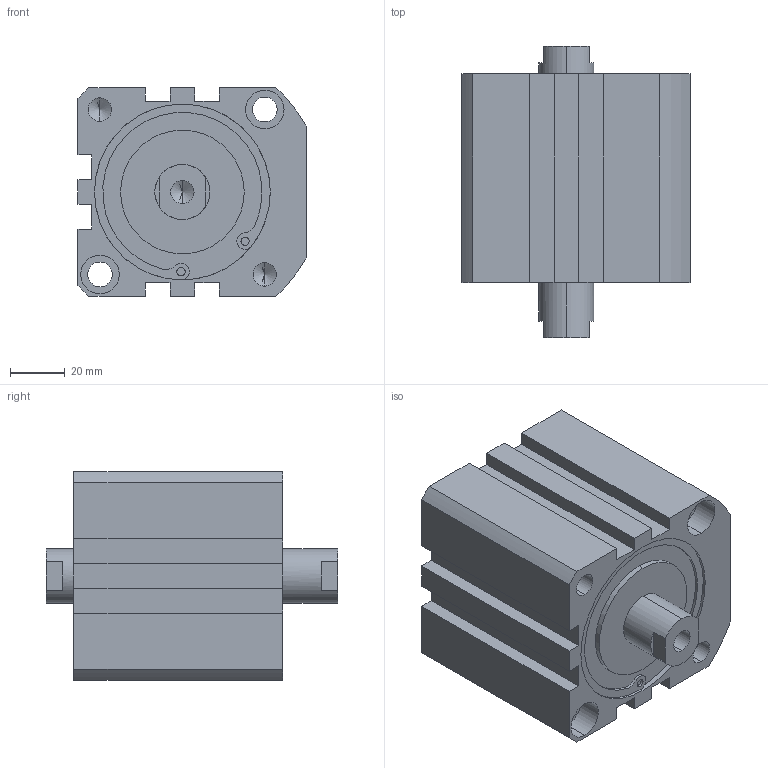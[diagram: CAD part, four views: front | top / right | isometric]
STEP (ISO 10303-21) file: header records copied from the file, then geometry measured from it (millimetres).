
FILE_DESCRIPTION (( 'STEP AP203' ), '1' );
FILE_NAME ('XG#7-63D-10.STEP', '2016-05-24T02:00:37', ( '' ), ( '' ), 'SwSTEP 2.0', 'SolidWorks 2014', '' );
FILE_SCHEMA (( 'CONFIG_CONTROL_DESIGN' ));
Length unit declared in the file: millimetre
Products named in the file (1): XG#7-63D-10
Bounding box: 83 x 106 x 76 mm (x, y, z)
Volume: 426050.3 mm3; surface area: 51964.9 mm2
Topology: 1 solids, 1 shells, 145 faces, 365 edges, 230 vertices
Faces by surface type: cylinder 69, plane 56, cone 20
Entity records: 4362 total; most frequent: DIRECTION 799, CARTESIAN_POINT 725, ORIENTED_EDGE 698, EDGE_CURVE 349, AXIS2_PLACEMENT_3D 304, VERTEX_POINT 230, LINE 191, VECTOR 191
